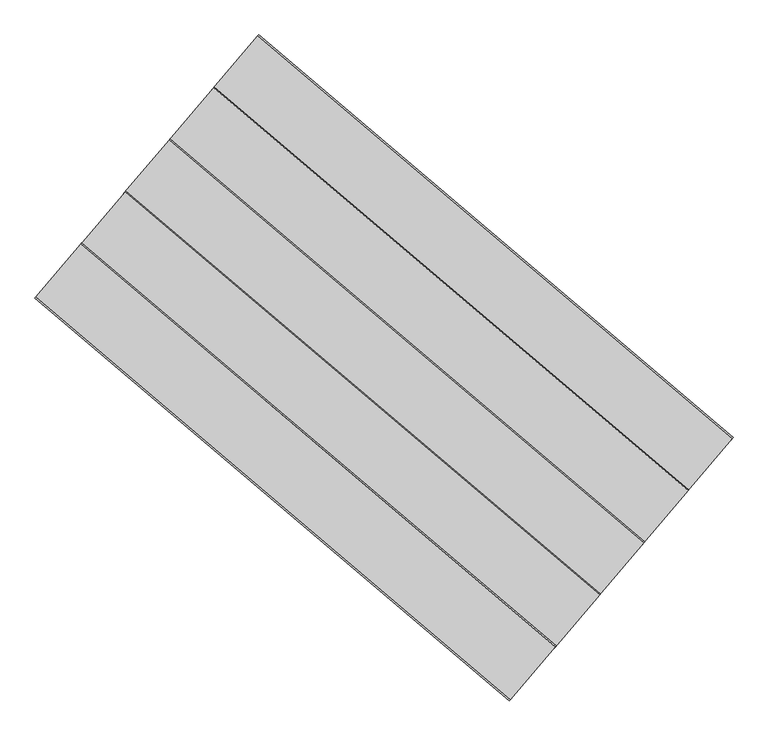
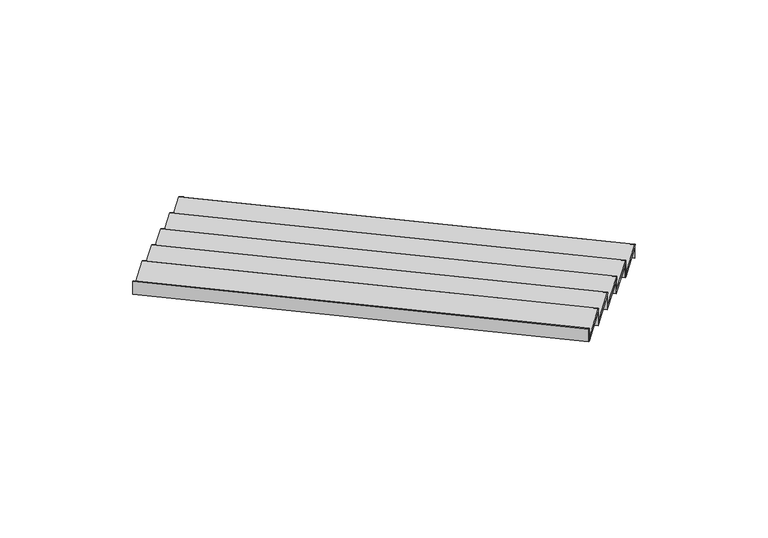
"""IFC4 building model written with IfcOpenShell, lengths in millimetres: stair flight geometry, Wood Steps with 50 mm Tread 20 mm Nosing 13 mm Riser."""

from ifc_helpers import new_model, si_unit, frame, origin, place, context, project, spatial, ellipse_curve, faceted_brep, source, transform, mapped, element, save
from ifc_brep_helpers import plane_surface, cylinder_surface, advanced_brep


def stair_flight_8d93022f(model_context):
    return source(origin(), model_context, "Body", "SolidModel", [
        advanced_brep(
        [(832525.053624, 66287.5635361, 159.2941176), (832525.053624, 66287.5635361, 179.2941176), (836609.0944013, 62818.49415, 179.2941176), (836609.0944013, 62818.49415, 159.2941176), (836221.7095795, 62362.3927877, 179.2941176), (832137.6688022, 65831.4621738, 179.2941176), (836609.0944013, 62818.49415, 129.2941176), (836221.7095795, 62362.3927877, 129.2941176), (832137.6688022, 65831.4621738, 129.2941176), (832525.053624, 66287.5635361, 129.2941176)],
        [
            (0, 1, ellipse_curve(frame((832525.053624, 66287.5635361, 169.2941176), z_axis=(0.762187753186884, -0.6473560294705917, 0.0), x_axis=(0.647356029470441, 0.7621877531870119, 0.0)), 10.0, 10.0)),
            (1, 2),
            (2, 3, ellipse_curve(frame((836609.0944013, 62818.49415, 169.2941176), z_axis=(-0.7621877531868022, 0.647356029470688, 0.0), x_axis=(0.6473560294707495, 0.7621877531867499, 0.0)), 10.0, 10.0)),
            (3, 0),
            (4, 2),
            (1, 5),
            (5, 4),
            (6, 7),
            (7, 8),
            (8, 9),
            (9, 6),
            (4, 7),
            (6, 3),
            (9, 0),
            (8, 5),
        ],
        [
            cylinder_surface(frame((832525.053624, 66287.5635361, 169.2941176), z_axis=(-0.7621570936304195, 0.6473921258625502, 0.0), x_axis=(-0.6473921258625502, -0.7621570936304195, 0.0)), 10.0),
            plane_surface(frame((840534.1764413, 67439.8297443, 179.2941176), z_axis=(0.0, 0.0, 1.0), x_axis=(0.647356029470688, 0.7621877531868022, 0.0))),
            plane_surface(frame((840534.1764413, 67439.8297443, 129.2941176), z_axis=(0.0, 0.0, -1.0), x_axis=(-0.647356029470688, -0.7621877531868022, 0.0))),
            plane_surface(frame((836221.7095795, 62362.3927877, 179.2941176), z_axis=(0.7621877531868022, -0.647356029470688, 0.0), x_axis=(0.0, 0.0, -1.0))),
            plane_surface(frame((836609.0944013, 62818.49415, 179.2941176), z_axis=(0.6473921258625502, 0.7621570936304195, 0.0), x_axis=(0.0, 0.0, -1.0))),
            plane_surface(frame((832525.053624, 66287.5635361, 179.2941176), z_axis=(-0.762187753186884, 0.6473560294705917, 0.0), x_axis=(0.0, 0.0, -1.0))),
            plane_surface(frame((832137.6688022, 65831.4621738, 179.2941176), z_axis=(-0.6473921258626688, -0.7621570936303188, 0.0), x_axis=(0.0, 0.0, -1.0))),
        ],
        [
            (0, [[1, 2, 3, 4]]),
            (1, [[5, -2, 6, 7]]),
            (2, [[8, 9, 10, 11]]),
            (3, [[-5, 12, -8, 13, -3]]),
            (4, [[-11, 14, -4, -13]]),
            (5, [[-6, -1, -14, -10, 15]]),
            (6, [[-7, -15, -9, -12]]),
        ],
    ),
        faceted_brep([(832518.5800637, 66279.9416585, 129.2941176), (832518.5800637, 66279.9416585, 0.0), (832510.4881133, 66270.4143116, 0.0), (832510.4881133, 66270.4143116, 129.2941176), (836602.620841, 62810.8722724, 129.2941176), (836594.5288906, 62801.3449255, 129.2941176), (836594.5288906, 62801.3449255, 0.0), (836602.620841, 62810.8722724, 0.0)], [[[0, 1, 2, 3]], [[4, 5, 6, 7]], [[1, 0, 4, 7]], [[2, 1, 7, 6]], [[3, 2, 6, 5]], [[0, 3, 5, 4]]]),
        faceted_brep([(832137.6688022, 65831.4621738, 308.5882353), (832137.6688022, 65831.4621738, 129.2941176), (832129.5768519, 65821.9348268, 129.2941176), (832129.5768519, 65821.9348268, 308.5882353), (836221.7095795, 62362.3927877, 308.5882353), (836213.6176291, 62352.8654408, 308.5882353), (836213.6176291, 62352.8654408, 129.2941176), (836221.7095795, 62362.3927877, 129.2941176)], [[[0, 1, 2, 3]], [[4, 5, 6, 7]], [[1, 0, 4, 7]], [[2, 1, 7, 6]], [[3, 2, 6, 5]], [[0, 3, 5, 4]]]),
        advanced_brep(
        [(835840.798318, 61913.9133029, 358.5882353), (836228.1831398, 62370.0146652, 358.5882353), (832144.1423625, 65839.0840513, 358.5882353), (831756.7575408, 65382.982689, 358.5882353), (836228.1831398, 62370.0146652, 308.5882353), (835840.798318, 61913.9133029, 308.5882353), (831756.7575408, 65382.982689, 308.5882353), (832144.1423625, 65839.0840513, 308.5882353), (836228.1831398, 62370.0146652, 338.5882353), (832144.1423625, 65839.0840513, 338.5882353)],
        [
            (0, 1),
            (1, 2),
            (2, 3),
            (3, 0),
            (4, 5),
            (5, 6),
            (6, 7),
            (7, 4),
            (0, 5),
            (4, 8),
            (8, 1, ellipse_curve(frame((836228.1831398, 62370.0146652, 348.5882353), z_axis=(0.7621877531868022, -0.647356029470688, 0.0), x_axis=(0.647356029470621, 0.7621877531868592, 0.0)), 10.0, 10.0)),
            (7, 9),
            (9, 8),
            (2, 9, ellipse_curve(frame((832144.1423625, 65839.0840513, 348.5882353), z_axis=(-0.762187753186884, 0.6473560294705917, 0.0), x_axis=(0.6473560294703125, 0.7621877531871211, 0.0)), 10.0, 10.0)),
            (6, 3),
        ],
        [
            plane_surface(frame((840534.1764413, 67439.8297443, 358.5882353), z_axis=(0.0, 0.0, 1.0), x_axis=(0.647356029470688, 0.7621877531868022, 0.0))),
            plane_surface(frame((840534.1764413, 67439.8297443, 308.5882353), z_axis=(0.0, 0.0, -1.0), x_axis=(-0.647356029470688, -0.7621877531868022, 0.0))),
            plane_surface(frame((835840.798318, 61913.9133029, 358.5882353), z_axis=(0.7621877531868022, -0.647356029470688, 0.0), x_axis=(0.0, 0.0, -1.0))),
            plane_surface(frame((836228.1831398, 62370.0146652, 358.5882353), z_axis=(0.6473921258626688, 0.7621570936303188, 0.0), x_axis=(0.0, 0.0, -1.0))),
            plane_surface(frame((832144.1423625, 65839.0840513, 358.5882353), z_axis=(-0.762187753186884, 0.6473560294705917, 0.0), x_axis=(0.0, 0.0, -1.0))),
            plane_surface(frame((831756.7575408, 65382.982689, 358.5882353), z_axis=(-0.6473921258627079, -0.7621570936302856, 0.0), x_axis=(0.0, 0.0, -1.0))),
            cylinder_surface(frame((832144.1423625, 65839.0840513, 348.5882353), z_axis=(-0.7621570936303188, 0.6473921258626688, 0.0), x_axis=(-0.6473921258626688, -0.7621570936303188, 0.0)), 10.0),
        ],
        [
            (0, [[1, 2, 3, 4]]),
            (1, [[5, 6, 7, 8]]),
            (2, [[-1, 9, -5, 10, 11]]),
            (3, [[-8, 12, 13, -10]]),
            (4, [[-3, 14, -12, -7, 15]]),
            (5, [[-4, -15, -6, -9]]),
            (6, [[-14, -2, -11, -13]]),
        ],
    ),
        faceted_brep([(831756.7575408, 65382.982689, 487.8823529), (831756.7575408, 65382.982689, 308.5882353), (831748.6655904, 65373.4553421, 308.5882353), (831748.6655904, 65373.4553421, 487.8823529), (835840.798318, 61913.9133029, 487.8823529), (835832.7063676, 61904.385956, 487.8823529), (835832.7063676, 61904.385956, 308.5882353), (835840.798318, 61913.9133029, 308.5882353)], [[[0, 1, 2, 3]], [[4, 5, 6, 7]], [[1, 0, 4, 7]], [[2, 1, 7, 6]], [[3, 2, 6, 5]], [[0, 3, 5, 4]]]),
        advanced_brep(
        [(835459.8870565, 61465.4338182, 537.8823529), (835847.2718783, 61921.5351805, 537.8823529), (831763.2311011, 65390.6045666, 537.8823529), (831375.8462793, 64934.5032043, 537.8823529), (835847.2718783, 61921.5351805, 487.8823529), (835459.8870565, 61465.4338182, 487.8823529), (831375.8462793, 64934.5032043, 487.8823529), (831763.2311011, 65390.6045666, 487.8823529), (835847.2718783, 61921.5351805, 517.8823529), (831763.2311011, 65390.6045666, 517.8823529)],
        [
            (0, 1),
            (1, 2),
            (2, 3),
            (3, 0),
            (4, 5),
            (5, 6),
            (6, 7),
            (7, 4),
            (0, 5),
            (4, 8),
            (8, 1, ellipse_curve(frame((835847.2718783, 61921.5351805, 527.8823529), z_axis=(0.7621877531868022, -0.647356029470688, 0.0), x_axis=(0.647356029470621, 0.7621877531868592, 0.0)), 10.0, 10.0)),
            (7, 9),
            (9, 8),
            (2, 9, ellipse_curve(frame((831763.2311011, 65390.6045666, 527.8823529), z_axis=(-0.762187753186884, 0.6473560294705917, 0.0), x_axis=(0.6473560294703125, 0.7621877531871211, 0.0)), 10.0, 10.0)),
            (6, 3),
        ],
        [
            plane_surface(frame((840153.2651799, 66991.3502595, 537.8823529), z_axis=(0.0, 0.0, 1.0), x_axis=(0.647356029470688, 0.7621877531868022, 0.0))),
            plane_surface(frame((840153.2651799, 66991.3502595, 487.8823529), z_axis=(0.0, 0.0, -1.0), x_axis=(-0.647356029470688, -0.7621877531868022, 0.0))),
            plane_surface(frame((835459.8870565, 61465.4338182, 537.8823529), z_axis=(0.7621877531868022, -0.647356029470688, 0.0), x_axis=(0.0, 0.0, -1.0))),
            plane_surface(frame((835847.2718783, 61921.5351805, 537.8823529), z_axis=(0.6473921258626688, 0.7621570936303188, 0.0), x_axis=(0.0, 0.0, -1.0))),
            plane_surface(frame((831763.2311011, 65390.6045666, 537.8823529), z_axis=(-0.762187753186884, 0.6473560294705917, 0.0), x_axis=(0.0, 0.0, -1.0))),
            plane_surface(frame((831375.8462793, 64934.5032043, 537.8823529), z_axis=(-0.6473921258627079, -0.7621570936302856, 0.0), x_axis=(0.0, 0.0, -1.0))),
            cylinder_surface(frame((831763.2311011, 65390.6045666, 527.8823529), z_axis=(-0.7621570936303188, 0.6473921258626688, 0.0), x_axis=(-0.6473921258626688, -0.7621570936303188, 0.0)), 10.0),
        ],
        [
            (0, [[1, 2, 3, 4]]),
            (1, [[5, 6, 7, 8]]),
            (2, [[-1, 9, -5, 10, 11]]),
            (3, [[-8, 12, 13, -10]]),
            (4, [[-3, 14, -12, -7, 15]]),
            (5, [[-4, -15, -6, -9]]),
            (6, [[-14, -2, -11, -13]]),
        ],
    ),
        faceted_brep([(831375.8462793, 64934.5032043, 667.1764706), (831375.8462793, 64934.5032043, 487.8823529), (831367.7543289, 64924.9758573, 487.8823529), (831367.7543289, 64924.9758573, 667.1764706), (835459.8870565, 61465.4338182, 667.1764706), (835451.7951062, 61455.9064712, 667.1764706), (835451.7951062, 61455.9064712, 487.8823529), (835459.8870565, 61465.4338182, 487.8823529)], [[[0, 1, 2, 3]], [[4, 5, 6, 7]], [[1, 0, 4, 7]], [[2, 1, 7, 6]], [[3, 2, 6, 5]], [[0, 3, 5, 4]]]),
        advanced_brep(
        [(835078.9757951, 61016.9543334, 717.1764706), (835466.3606168, 61473.0556957, 717.1764706), (831382.3198396, 64942.1250818, 717.1764706), (830994.9350178, 64486.0237195, 717.1764706), (835466.3606168, 61473.0556957, 667.1764706), (835078.9757951, 61016.9543334, 667.1764706), (830994.9350178, 64486.0237195, 667.1764706), (831382.3198396, 64942.1250818, 667.1764706), (835466.3606168, 61473.0556957, 697.1764706), (831382.3198396, 64942.1250818, 697.1764706)],
        [
            (0, 1),
            (1, 2),
            (2, 3),
            (3, 0),
            (4, 5),
            (5, 6),
            (6, 7),
            (7, 4),
            (0, 5),
            (4, 8),
            (8, 1, ellipse_curve(frame((835466.3606168, 61473.0556957, 707.1764706), z_axis=(0.7621877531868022, -0.647356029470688, 0.0), x_axis=(0.647356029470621, 0.7621877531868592, 0.0)), 10.0, 10.0)),
            (7, 9),
            (9, 8),
            (2, 9, ellipse_curve(frame((831382.3198396, 64942.1250818, 707.1764706), z_axis=(-0.762187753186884, 0.6473560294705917, 0.0), x_axis=(0.6473560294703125, 0.7621877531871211, 0.0)), 10.0, 10.0)),
            (6, 3),
        ],
        [
            plane_surface(frame((839772.3539184, 66542.8707748, 717.1764706), z_axis=(0.0, 0.0, 1.0), x_axis=(0.647356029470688, 0.7621877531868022, 0.0))),
            plane_surface(frame((839772.3539184, 66542.8707748, 667.1764706), z_axis=(0.0, 0.0, -1.0), x_axis=(-0.647356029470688, -0.7621877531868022, 0.0))),
            plane_surface(frame((835078.9757951, 61016.9543334, 717.1764706), z_axis=(0.7621877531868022, -0.647356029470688, 0.0), x_axis=(0.0, 0.0, -1.0))),
            plane_surface(frame((835466.3606168, 61473.0556957, 717.1764706), z_axis=(0.6473921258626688, 0.7621570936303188, 0.0), x_axis=(0.0, 0.0, -1.0))),
            plane_surface(frame((831382.3198396, 64942.1250818, 717.1764706), z_axis=(-0.762187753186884, 0.6473560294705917, 0.0), x_axis=(0.0, 0.0, -1.0))),
            plane_surface(frame((830994.9350178, 64486.0237195, 717.1764706), z_axis=(-0.6473921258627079, -0.7621570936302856, 0.0), x_axis=(0.0, 0.0, -1.0))),
            cylinder_surface(frame((831382.3198396, 64942.1250818, 707.1764706), z_axis=(-0.7621570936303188, 0.6473921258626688, 0.0), x_axis=(-0.6473921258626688, -0.7621570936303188, 0.0)), 10.0),
        ],
        [
            (0, [[1, 2, 3, 4]]),
            (1, [[5, 6, 7, 8]]),
            (2, [[-1, 9, -5, 10, 11]]),
            (3, [[-8, 12, 13, -10]]),
            (4, [[-3, 14, -12, -7, 15]]),
            (5, [[-4, -15, -6, -9]]),
            (6, [[-14, -2, -11, -13]]),
        ],
    ),
        faceted_brep([(830994.9350178, 64486.0237195, 846.4705882), (830994.9350178, 64486.0237195, 667.1764706), (830986.8430674, 64476.4963726, 667.1764706), (830986.8430674, 64476.4963726, 846.4705882), (835078.9757951, 61016.9543334, 846.4705882), (835070.8838447, 61007.4269865, 846.4705882), (835070.8838447, 61007.4269865, 667.1764706), (835078.9757951, 61016.9543334, 667.1764706)], [[[0, 1, 2, 3]], [[4, 5, 6, 7]], [[1, 0, 4, 7]], [[2, 1, 7, 6]], [[3, 2, 6, 5]], [[0, 3, 5, 4]]]),
        faceted_brep([(830614.0237563, 64037.5442347, 1025.7647059), (830614.0237563, 64037.5442347, 846.4705882), (830605.931806, 64028.0168878, 846.4705882), (830605.931806, 64028.0168878, 1025.7647059), (834698.0645336, 60568.4748487, 1025.7647059), (834689.9725832, 60558.9475017, 1025.7647059), (834689.9725832, 60558.9475017, 846.4705882), (834698.0645336, 60568.4748487, 846.4705882)], [[[0, 1, 2, 3]], [[4, 5, 6, 7]], [[1, 0, 4, 7]], [[2, 1, 7, 6]], [[3, 2, 6, 5]], [[0, 3, 5, 4]]]),
        advanced_brep(
        [(834698.0645336, 60568.4748487, 896.4705882), (835085.4493554, 61024.576211, 896.4705882), (831001.4085781, 64493.645597, 896.4705882), (830614.0237563, 64037.5442347, 896.4705882), (835085.4493554, 61024.576211, 846.4705882), (834698.0645336, 60568.4748487, 846.4705882), (830614.0237563, 64037.5442347, 846.4705882), (831001.4085781, 64493.645597, 846.4705882), (835085.4493554, 61024.576211, 876.4705882), (831001.4085781, 64493.645597, 876.4705882)],
        [
            (0, 1),
            (1, 2),
            (2, 3),
            (3, 0),
            (4, 5),
            (5, 6),
            (6, 7),
            (7, 4),
            (0, 5),
            (4, 8),
            (8, 1, ellipse_curve(frame((835085.4493554, 61024.576211, 886.4705882), z_axis=(0.7621877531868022, -0.647356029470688, 0.0), x_axis=(0.647356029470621, 0.7621877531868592, 0.0)), 10.0, 10.0)),
            (7, 9),
            (9, 8),
            (2, 9, ellipse_curve(frame((831001.4085781, 64493.645597, 886.4705882), z_axis=(-0.762187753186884, 0.6473560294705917, 0.0), x_axis=(0.6473560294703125, 0.7621877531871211, 0.0)), 10.0, 10.0)),
            (6, 3),
        ],
        [
            plane_surface(frame((839391.4426569, 66094.39129, 896.4705882), z_axis=(0.0, 0.0, 1.0), x_axis=(0.647356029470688, 0.7621877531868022, 0.0))),
            plane_surface(frame((839391.4426569, 66094.39129, 846.4705882), z_axis=(0.0, 0.0, -1.0), x_axis=(-0.647356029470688, -0.7621877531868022, 0.0))),
            plane_surface(frame((834698.0645336, 60568.4748487, 896.4705882), z_axis=(0.7621877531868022, -0.647356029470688, 0.0), x_axis=(0.0, 0.0, -1.0))),
            plane_surface(frame((835085.4493554, 61024.576211, 896.4705882), z_axis=(0.6473921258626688, 0.7621570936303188, 0.0), x_axis=(0.0, 0.0, -1.0))),
            plane_surface(frame((831001.4085781, 64493.645597, 896.4705882), z_axis=(-0.762187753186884, 0.6473560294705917, 0.0), x_axis=(0.0, 0.0, -1.0))),
            plane_surface(frame((830614.0237563, 64037.5442347, 896.4705882), z_axis=(-0.6473921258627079, -0.7621570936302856, 0.0), x_axis=(0.0, 0.0, -1.0))),
            cylinder_surface(frame((831001.4085781, 64493.645597, 886.4705882), z_axis=(-0.7621570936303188, 0.6473921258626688, 0.0), x_axis=(-0.6473921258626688, -0.7621570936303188, 0.0)), 10.0),
        ],
        [
            (0, [[1, 2, 3, 4]]),
            (1, [[5, 6, 7, 8]]),
            (2, [[-1, 9, -5, 10, 11]]),
            (3, [[-8, 12, 13, -10]]),
            (4, [[-3, 14, -12, -7, 15]]),
            (5, [[-4, -15, -6, -9]]),
            (6, [[-14, -2, -11, -13]]),
        ],
    ),
    ])


if __name__ == "__main__":
    model = new_model("IFC4")
    model_context = context("Model", 3, world=origin())
    ifc_project = project(units=[si_unit("LENGTHUNIT", "METRE", prefix="MILLI")], contexts=[model_context])
    site = spatial("IfcSite", under=ifc_project)
    building = spatial("IfcBuilding", under=site)
    placement = place(None, origin())
    stair_flight_shape = stair_flight_8d93022f(model_context)
    element("IfcStairFlight", 1, ObjectType="Wood Steps with 50 mm Tread 20 mm Nosing 13 mm Riser", at=placement, inside=building, context=model_context, shape_type="MappedRepresentation", body=[
        mapped(stair_flight_shape, transform((0.0, 0.0, 0.0), x_axis=(1.0, 0.0, 0.0), y_axis=(0.0, 1.0, 0.0), z_axis=(0.0, 0.0, 1.0))),
    ])
    save(model, "model.ifc")
